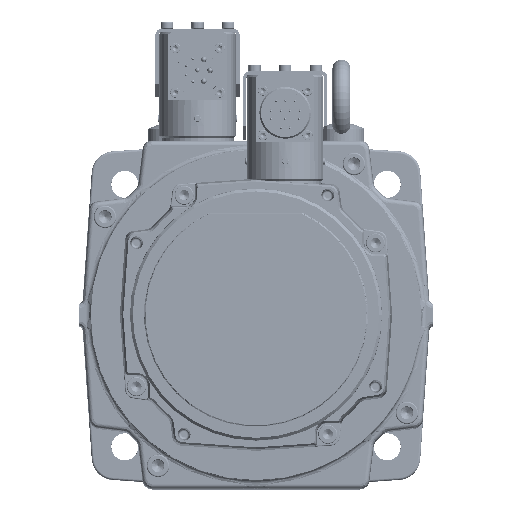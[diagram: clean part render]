
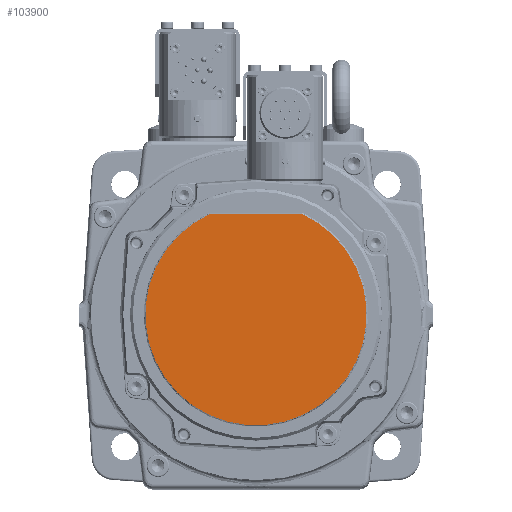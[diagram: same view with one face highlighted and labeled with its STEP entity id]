
A CAD part, top view. The second image highlights one B-rep face of the part: STEP entity #103900.
In plain terms, the highlighted planar face has unit normal (0, 0, 1).
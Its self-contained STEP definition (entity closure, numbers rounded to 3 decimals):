
#96472=CARTESIAN_POINT('',(0.,0.,63.9));
#96473=DIRECTION('',(0.,0.,-1.));
#96474=DIRECTION('',(0.418,0.908,0.));
#96475=AXIS2_PLACEMENT_3D('',#96472,#96473,#96474);
#96484=DIRECTION('',(-1.,0.,0.));
#96485=VECTOR('',#96484,41.125);
#96486=CARTESIAN_POINT('',(20.562,44.7,63.9));
#96487=LINE('',#96486,#96485);
#97148=CARTESIAN_POINT('',(20.562,44.7,63.9));
#97149=CARTESIAN_POINT('',(-20.562,44.7,63.9));
#97150=VERTEX_POINT('',#97148);
#97151=VERTEX_POINT('',#97149);
#103891=CARTESIAN_POINT('',(0.,0.,63.9));
#103892=DIRECTION('',(0.,0.,1.));
#103893=DIRECTION('',(1.,0.,0.));
#103894=AXIS2_PLACEMENT_3D('',#103891,#103892,#103893);
#103895=PLANE('',#103894);
#103896=ORIENTED_EDGE('',*,*,#103870,.T.);
#103897=ORIENTED_EDGE('',*,*,#103882,.F.);
#103898=EDGE_LOOP('',(#103896,#103897));
#103899=FACE_OUTER_BOUND('',#103898,.F.);
#103900=ADVANCED_FACE('',(#103899),#103895,.T.);
#96476=CIRCLE('',#96475,49.203);
#103870=EDGE_CURVE('',#97150,#97151,#96476,.T.);
#103882=EDGE_CURVE('',#97150,#97151,#96487,.T.);
